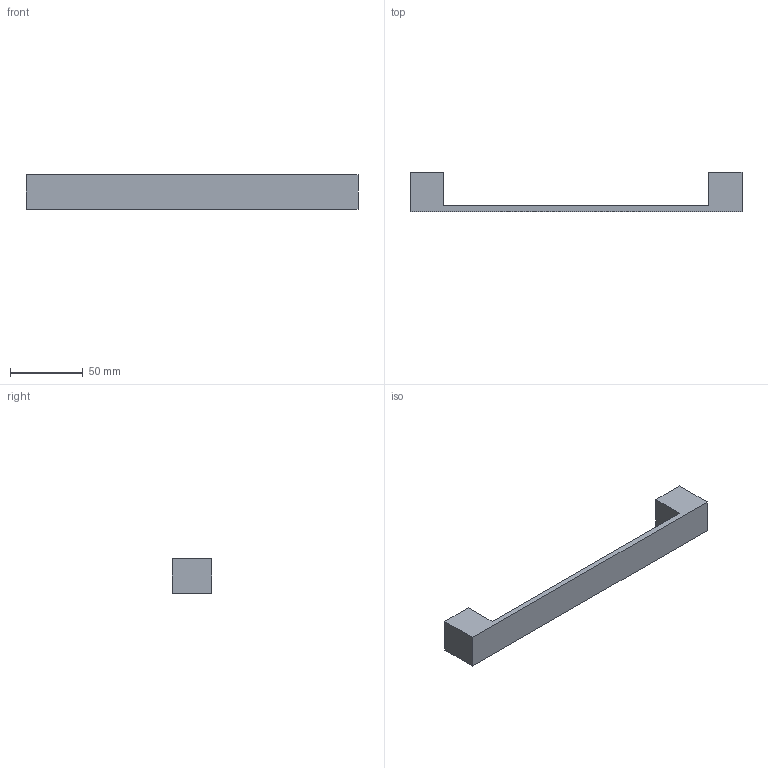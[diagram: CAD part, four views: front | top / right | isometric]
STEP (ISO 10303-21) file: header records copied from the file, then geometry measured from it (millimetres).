
FILE_DESCRIPTION( ( '' ), '1' );
FILE_NAME( 'C:/Documents and Settings/Sachin/Desktop/Sheet 10_1/stp/9113184.stp', '2013-10-22T10:42:46', ( '' ), ( '' ), ' ', ' ', ' ' );
FILE_SCHEMA( ( 'CONFIG_CONTROL_DESIGN' ) );
Length unit declared in the file: millimetre
Products named in the file (1): 1
Bounding box: 228 x 27 x 24 mm (x, y, z)
Volume: 42231.1 mm3; surface area: 17989.1 mm2
Topology: 1 solids, 1 shells, 21 faces, 51 edges, 34 vertices
Faces by surface type: plane 13, cylinder 8
Entity records: 665 total; most frequent: DIRECTION 111, CARTESIAN_POINT 107, ORIENTED_EDGE 102, EDGE_CURVE 51, AXIS2_PLACEMENT_3D 38, LINE 35, VECTOR 35, VERTEX_POINT 34
